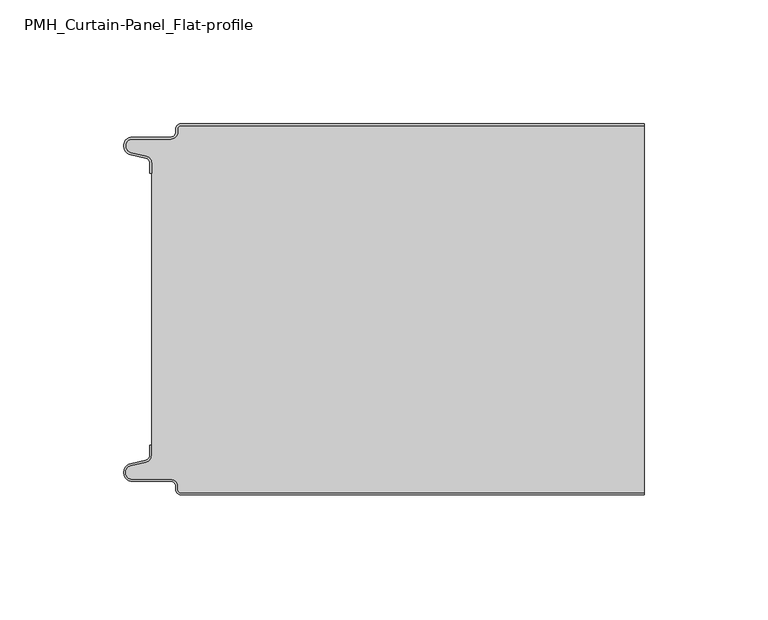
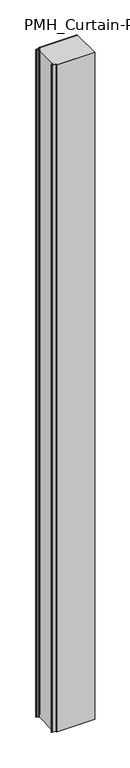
"""IFC4 building model written with IfcOpenShell, lengths in millimetres: plate geometry, PMH_Curtain-Panel_Flat-profile : ACH_PMH_Stone-wool-Panel_150M."""

from ifc_helpers import new_model, si_unit, point, frame_2d, origin, origin_with_axes, place, context, project, spatial, polyline, circle_curve, trimmed, segment, composite_curve, outline, extrude, source, transform, mapped, element, save


def pmh_curtain_panel_flat_profile_4922355f(model_context):
    return source(origin(), model_context, "Body", "SweptSolid", [
        extrude(outline(composite_curve([segment(trimmed(circle_curve(frame_2d((-87.4, -2.0)), 1.2), [point((-87.4, -0.8))], [point((-88.6, -2.0))], True, "CARTESIAN"), True, "CONTINUOUS"), segment(polyline([(-88.6, -2.0), (-88.6, -3.4)]), True, "CONTINUOUS"), segment(trimmed(circle_curve(frame_2d((-91.4, -3.4)), 2.8), [point((-88.6, -3.4))], [point((-91.4, -6.2))], False, "CARTESIAN"), True, "CONTINUOUS"), segment(polyline([(-91.4, -6.2), (-106.9, -6.2)]), True, "CONTINUOUS"), segment(trimmed(circle_curve(frame_2d((-106.9, -9.0)), 2.8), [point((-106.9, -6.2))], [point((-107.529863, -11.7282362))], True, "CARTESIAN"), True, "CONTINUOUS"), segment(polyline([(-107.529863, -11.7282362), (-101.370137, -13.150321)]), True, "CONTINUOUS"), segment(trimmed(circle_curve(frame_2d((-102.0, -15.878557)), 2.8), [point((-101.370137, -13.150321))], [point((-99.2, -15.878557))], False, "CARTESIAN"), True, "CONTINUOUS"), segment(polyline([(-99.2, -15.878557), (-99.2, -20.0), (-100.0, -20.0), (-100.0, -15.878557)]), True, "CONTINUOUS"), segment(trimmed(circle_curve(frame_2d((-102.0, -15.878557)), 2.0), [point((-100.0, -15.878557))], [point((-101.5500978, -13.9298169))], True, "CARTESIAN"), True, "CONTINUOUS"), segment(polyline([(-101.5500978, -13.9298169), (-107.7098239, -12.507732)]), True, "CONTINUOUS"), segment(trimmed(circle_curve(frame_2d((-106.9, -9.0)), 3.6), [point((-107.7098239, -12.507732))], [point((-106.9, -5.4))], False, "CARTESIAN"), True, "CONTINUOUS"), segment(polyline([(-106.9, -5.4), (-91.4, -5.4)]), True, "CONTINUOUS"), segment(trimmed(circle_curve(frame_2d((-91.4, -3.4)), 2.0), [point((-91.4, -5.4))], [point((-89.4, -3.4))], True, "CARTESIAN"), True, "CONTINUOUS"), segment(polyline([(-89.4, -3.4), (-89.4, -2.0)]), True, "CONTINUOUS"), segment(trimmed(circle_curve(frame_2d((-87.4, -2.0)), 2.0), [point((-89.4, -2.0))], [point((-87.4, 0.0))], False, "CARTESIAN"), True, "CONTINUOUS"), segment(polyline([(-87.4, 0.0), (100.0, 0.0), (100.0, -0.8), (-87.4, -0.8)]), True, "CONTINUOUS")], self_intersect=False)), origin_with_axes(), (0.0, 0.0, 1.0), 3500.0),
        extrude(outline(composite_curve([segment(polyline([(-99.2, -134.1214426), (-99.2, -15.8785573)]), True, "CONTINUOUS"), segment(trimmed(circle_curve(frame_2d((-102.0, -15.8785573)), 2.8), [point((-99.2, -15.8785573))], [point((-101.370137, -13.1503212))], True, "CARTESIAN"), True, "CONTINUOUS"), segment(polyline([(-101.370137, -13.1503212), (-107.5298631, -11.7282362)]), True, "CONTINUOUS"), segment(trimmed(circle_curve(frame_2d((-106.9, -9.0)), 2.8), [point((-107.5298631, -11.7282362))], [point((-106.9, -6.2))], False, "CARTESIAN"), True, "CONTINUOUS"), segment(polyline([(-106.9, -6.2), (-91.4000001, -6.2)]), True, "CONTINUOUS"), segment(trimmed(circle_curve(frame_2d((-91.4000001, -3.4)), 2.8), [point((-91.4000001, -6.2))], [point((-88.6000001, -3.4))], True, "CARTESIAN"), True, "CONTINUOUS"), segment(polyline([(-88.6000001, -3.4), (-88.6000001, -2.0)]), True, "CONTINUOUS"), segment(trimmed(circle_curve(frame_2d((-87.4000001, -2.0)), 1.2), [point((-88.6000001, -2.0))], [point((-87.4000001, -0.8))], False, "CARTESIAN"), True, "CONTINUOUS"), segment(polyline([(-87.4000001, -0.8), (100.0, -0.8), (100.0, -149.2), (-87.4000001, -149.2)]), True, "CONTINUOUS"), segment(trimmed(circle_curve(frame_2d((-87.4000001, -148.0)), 1.2), [point((-87.4000001, -149.2))], [point((-88.6000001, -148.0))], False, "CARTESIAN"), True, "CONTINUOUS"), segment(polyline([(-88.6000001, -148.0), (-88.6000001, -146.6)]), True, "CONTINUOUS"), segment(trimmed(circle_curve(frame_2d((-91.4000001, -146.6)), 2.8), [point((-88.6000001, -146.6))], [point((-91.4000001, -143.8))], True, "CARTESIAN"), True, "CONTINUOUS"), segment(polyline([(-91.4000001, -143.8), (-106.9, -143.8)]), True, "CONTINUOUS"), segment(trimmed(circle_curve(frame_2d((-106.9, -141.0)), 2.8), [point((-106.9, -143.8))], [point((-107.5298631, -138.2717638))], False, "CARTESIAN"), True, "CONTINUOUS"), segment(polyline([(-107.5298631, -138.2717638), (-101.370137, -136.8496788)]), True, "CONTINUOUS"), segment(trimmed(circle_curve(frame_2d((-102.0, -134.1214426)), 2.8), [point((-101.370137, -136.8496788))], [point((-99.2, -134.1214426))], True, "CARTESIAN"), True, "CONTINUOUS")], self_intersect=False)), origin_with_axes(), (0.0, 0.0, 1.0), 3500.0),
        extrude(outline(composite_curve([segment(trimmed(circle_curve(frame_2d((-87.4, -148.0)), 2.0), [point((-87.4, -150.0))], [point((-89.4, -148.0))], False, "CARTESIAN"), True, "CONTINUOUS"), segment(polyline([(-89.4, -148.0), (-89.4, -146.6)]), True, "CONTINUOUS"), segment(trimmed(circle_curve(frame_2d((-91.4, -146.6)), 2.0), [point((-89.4, -146.6))], [point((-91.4, -144.6))], True, "CARTESIAN"), True, "CONTINUOUS"), segment(polyline([(-91.4, -144.6), (-106.9, -144.6)]), True, "CONTINUOUS"), segment(trimmed(circle_curve(frame_2d((-106.9, -141.0)), 3.6), [point((-106.9, -144.6))], [point((-107.7098239, -137.4922678))], False, "CARTESIAN"), True, "CONTINUOUS"), segment(polyline([(-107.7098239, -137.4922678), (-101.5500979, -136.070183)]), True, "CONTINUOUS"), segment(trimmed(circle_curve(frame_2d((-102.0, -134.121443)), 2.0), [point((-101.5500979, -136.070183))], [point((-100.0, -134.121443))], True, "CARTESIAN"), True, "CONTINUOUS"), segment(polyline([(-100.0, -134.121443), (-100.0, -130.0), (-99.2, -130.0), (-99.2, -134.121443)]), True, "CONTINUOUS"), segment(trimmed(circle_curve(frame_2d((-102.0, -134.121443)), 2.8), [point((-99.2, -134.121443))], [point((-101.370137, -136.8496792))], False, "CARTESIAN"), True, "CONTINUOUS"), segment(polyline([(-101.370137, -136.8496792), (-107.529863, -138.271764)]), True, "CONTINUOUS"), segment(trimmed(circle_curve(frame_2d((-106.9, -141.0)), 2.8), [point((-107.529863, -138.271764))], [point((-106.9, -143.8))], True, "CARTESIAN"), True, "CONTINUOUS"), segment(polyline([(-106.9, -143.8), (-91.4, -143.8)]), True, "CONTINUOUS"), segment(trimmed(circle_curve(frame_2d((-91.4, -146.6)), 2.8), [point((-91.4, -143.8))], [point((-88.6, -146.6))], False, "CARTESIAN"), True, "CONTINUOUS"), segment(polyline([(-88.6, -146.6), (-88.6, -148.0)]), True, "CONTINUOUS"), segment(trimmed(circle_curve(frame_2d((-87.4, -148.0)), 1.2), [point((-88.6, -148.0))], [point((-87.4, -149.2))], True, "CARTESIAN"), True, "CONTINUOUS"), segment(polyline([(-87.4, -149.2), (100.0, -149.2), (100.0, -150.0), (-87.4, -150.0)]), True, "CONTINUOUS")], self_intersect=False)), origin_with_axes(), (0.0, 0.0, 1.0), 3500.0),
    ])


if __name__ == "__main__":
    model = new_model("IFC4")
    model_context = context("Model", 3, world=origin())
    ifc_project = project(units=[si_unit("LENGTHUNIT", "METRE", prefix="MILLI")], contexts=[model_context])
    site = spatial("IfcSite", under=ifc_project)
    building = spatial("IfcBuilding", under=site)
    placement = place(None, origin())
    pmh_curtain_panel_flat_profile_shape = pmh_curtain_panel_flat_profile_4922355f(model_context)
    element("IfcPlate", 1, ObjectType="PMH_Curtain-Panel_Flat-profile : ACH_PMH_Stone-wool-Panel_150M", at=placement, inside=building, context=model_context, shape_type="MappedRepresentation", body=[
        mapped(pmh_curtain_panel_flat_profile_shape, transform((0.0, 0.0, 0.0), x_axis=(1.0, 0.0, 0.0), y_axis=(0.0, 1.0, 0.0), z_axis=(0.0, 0.0, 1.0))),
    ])
    save(model, "model.ifc")
